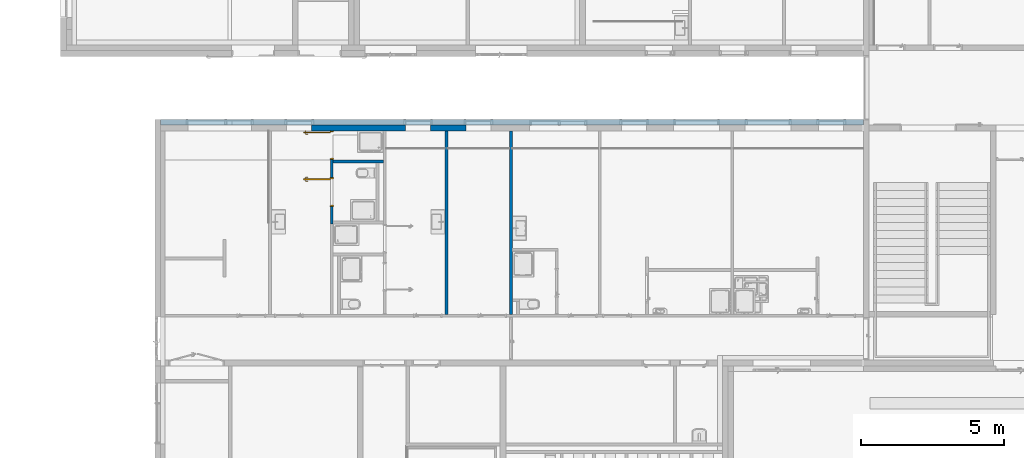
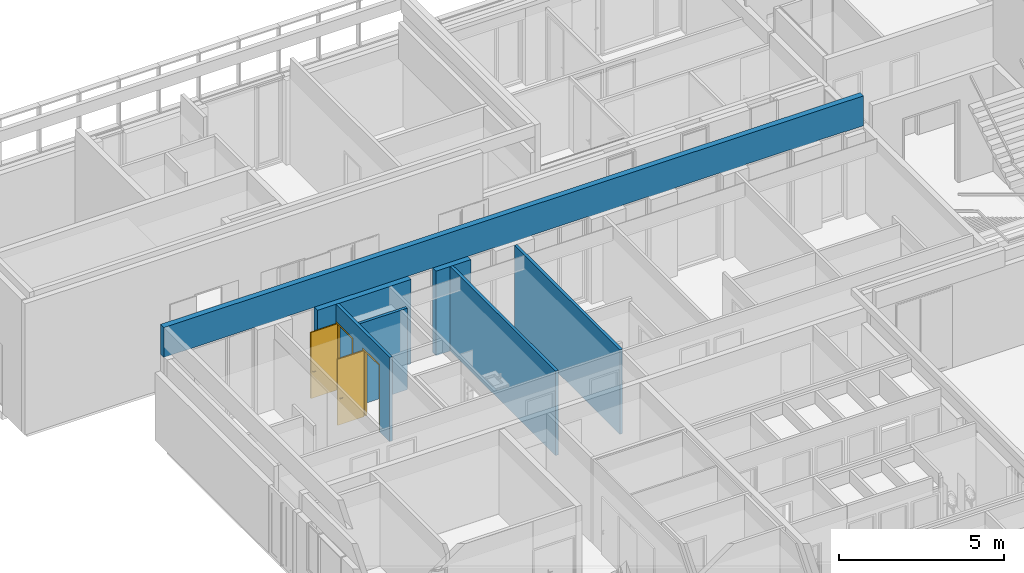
# One storey, part 112 of 240: 7 walls, 2 doors, 11 openings.
"""IFC2X3 building model written with IfcOpenShell, lengths in centimetres."""

import ifcopenshell
import ifcopenshell.guid

model = None  # the IFC model being written
_history = None  # IfcOwnerHistory: only IFC2X3 demands one
_inside = {}  # id of a spatial element -> (the spatial element, [elements in it])
_under = {}  # id of a project, library or spatial element -> (it, [spatial elements below it])
_declared = {}  # id of a project -> (the project, [libraries it declares])
_typed = {}  # id of a type object -> (the type object, [elements of that type])
_made_of = {}  # id of a material, layer set ... -> (it, [elements and type objects made of it])


def new_model(schema):
    """Start an empty IFC model of exactly this schema.

    Asked for "IFC4X3", IfcOpenShell would pick the latest addendum, in which some entities
    have other attributes; the version numbers below select the first issue.
    IFC2X3 requires an IfcOwnerHistory on every rooted entity: one is made here for all.
    """
    global model, _history
    if schema == "IFC4X3":
        model = ifcopenshell.file(schema_version=(4, 3, 0, 0))
    else:
        model = ifcopenshell.file(schema=schema)
    _inside.clear()
    _under.clear()
    _declared.clear()
    _typed.clear()
    _made_of.clear()
    _history = None
    if model.schema == "IFC2X3":
        org = make("IfcOrganization", Name="unknown")
        user = make(
            "IfcPersonAndOrganization",
            ThePerson=make("IfcPerson", FamilyName="unknown"),
            TheOrganization=org,
        )
        app = make(
            "IfcApplication",
            ApplicationDeveloper=org,
            Version="unknown",
            ApplicationFullName="unknown",
            ApplicationIdentifier="unknown",
        )
        _history = make(
            "IfcOwnerHistory",
            OwningUser=user,
            OwningApplication=app,
            ChangeAction="ADDED",
            CreationDate=0,
        )
    return model


def make(cls, **values):
    """One entity of the class cls with the attributes given. An attribute that is None is left unset."""
    return model.create_entity(
        cls, **{name: value for name, value in values.items() if value is not None}
    )


def entity(cls, *values):
    """Any entity or typed value of the class cls, its attributes in the order of the schema. None: left unset."""
    e = model.create_entity(cls)
    for i, value in enumerate(values):
        if value is not None:
            e[i] = value
    return e


def rooted(cls, **values):
    """An entity with a GlobalId (a new one), such as an element, a storey or a relation."""
    return make(cls, GlobalId=ifcopenshell.guid.new(), OwnerHistory=_history, **values)


def si_unit(unit_type, name, prefix=None):
    """IfcSIUnit, for example si_unit("LENGTHUNIT", "METRE", prefix="MILLI")."""
    return make("IfcSIUnit", UnitType=unit_type, Prefix=prefix, Name=name)


def converted_unit(unit_type, name, factor, base, dimensions=None, offset=None):
    """IfcConversionBasedUnit, such as the inch: factor (a typed value) times the base unit."""
    return make(
        "IfcConversionBasedUnit"
        if offset is None
        else "IfcConversionBasedUnitWithOffset",
        ConversionOffset=offset,
        Dimensions=None
        if dimensions is None
        else entity("IfcDimensionalExponents", *dimensions),
        UnitType=unit_type,
        Name=name,
        ConversionFactor=make(
            "IfcMeasureWithUnit", ValueComponent=factor, UnitComponent=base
        ),
    )


def derived_unit(unit_type, elements):
    """IfcDerivedUnit: a product of units, each with its exponent."""
    return make(
        "IfcDerivedUnit",
        Elements=[
            make("IfcDerivedUnitElement", Unit=unit, Exponent=power)
            for unit, power in elements
        ],
        UnitType=unit_type,
    )


def assignment(units):
    """IfcUnitAssignment: the units of a project."""
    return None if units is None else make("IfcUnitAssignment", Units=units)


def point(xyz):
    """IfcCartesianPoint."""
    return None if xyz is None else make("IfcCartesianPoint", Coordinates=xyz)


def direction(xyz):
    """IfcDirection."""
    return None if xyz is None else make("IfcDirection", DirectionRatios=xyz)


def frame(location, z_axis=None, x_axis=None):
    """IfcAxis2Placement3D, a coordinate frame: its origin and axes. An axis left out is left unset."""
    return make(
        "IfcAxis2Placement3D",
        Location=point(location),
        Axis=direction(z_axis),
        RefDirection=direction(x_axis),
    )


def frame_2d(location, x_axis=None):
    """IfcAxis2Placement2D, a coordinate frame in the plane: its origin and x axis."""
    return make(
        "IfcAxis2Placement2D", Location=point(location), RefDirection=direction(x_axis)
    )


def origin():
    """The frame at (0, 0, 0) with its axes left unset."""
    return frame((0.0, 0.0, 0.0))


def place(relative_to, where):
    """IfcLocalPlacement: puts the frame where relative to a parent placement (None: the world)."""
    return make(
        "IfcLocalPlacement", PlacementRelTo=relative_to, RelativePlacement=where
    )


def context(
    kind, dimensions, precision=None, world=None, true_north=None, identifier=None
):
    """IfcGeometricRepresentationContext, for example the 3D "Model" context."""
    return make(
        "IfcGeometricRepresentationContext",
        ContextIdentifier=identifier,
        ContextType=kind,
        CoordinateSpaceDimension=dimensions,
        Precision=precision,
        WorldCoordinateSystem=world,
        TrueNorth=true_north,
    )


def subcontext(parent, identifier, kind, view, scale=None):
    """IfcGeometricRepresentationSubContext, for example "Body" below "Model"."""
    return make(
        "IfcGeometricRepresentationSubContext",
        ContextIdentifier=identifier,
        ContextType=kind,
        ParentContext=parent,
        TargetScale=scale,
        TargetView=view,
    )


def project(units=None, contexts=None):
    """IfcProject with its units and contexts."""
    return rooted(
        "IfcProject",
        Name="project",
        RepresentationContexts=contexts,
        UnitsInContext=assignment(units),
    )


def spatial(cls, under=None, at=None, **own):
    """A site, building, storey or space (cls), placed at a placement, below another one or the project."""
    s = rooted(cls, ObjectPlacement=at, **own)
    if under is not None:
        _under.setdefault(under.id(), (under, []))[1].append(s)
    return s


def polyline(points):
    """IfcPolyline through the points."""
    return make("IfcPolyline", Points=[point(p) for p in points])


def profile(cls, at=None, kind="AREA", **sizes):
    """A parametric profile (cls). Its sizes go by their IFC names, for example OverallWidth=200.0."""
    return make(cls, ProfileType=kind, Position=at, **sizes)


def rectangle(**sizes):
    """IfcRectangleProfileDef."""
    return profile("IfcRectangleProfileDef", **sizes)


def extrude(swept, where, along, depth):
    """IfcExtrudedAreaSolid: the profile swept, set in the frame where, extruded along a direction by depth."""
    return make(
        "IfcExtrudedAreaSolid",
        SweptArea=swept,
        Position=where,
        ExtrudedDirection=direction(along),
        Depth=depth,
    )


def clip(a, b, op="DIFFERENCE"):
    """IfcBooleanClippingResult: the solid a cut by the half space b."""
    return make(
        "IfcBooleanClippingResult", Operator=op, FirstOperand=a, SecondOperand=b
    )


def bounded_halfspace(plane, agree, where, boundary):
    """IfcPolygonalBoundedHalfSpace: a half space limited to a polygon's prism."""
    return make(
        "IfcPolygonalBoundedHalfSpace",
        BaseSurface=make("IfcPlane", Position=plane),
        AgreementFlag=agree,
        Position=where,
        PolygonalBoundary=boundary,
    )


def faces_of(points, faces, orient=None, outer=None):
    """IfcFace entities. A face is a list of loops; a loop is a list of indices into points, from 0.

    orient and outer hold one flag for each loop. By default every Orientation is true, the
    first loop of a face is its IfcFaceOuterBound and the others are IfcFaceBound.
    """
    made = []
    for i, loops in enumerate(faces):
        bounds = []
        for j, loop in enumerate(loops):
            is_outer = j == 0 if outer is None else outer[i][j]
            bounds.append(
                make(
                    "IfcFaceOuterBound" if is_outer else "IfcFaceBound",
                    Bound=make("IfcPolyLoop", Polygon=[points[k] for k in loop]),
                    Orientation=True if orient is None else orient[i][j],
                )
            )
        made.append(make("IfcFace", Bounds=bounds))
    return made


def faceted_brep(points, faces, orient=None, outer=None, voids=None):
    """IfcFacetedBrep: a solid bounded by flat faces; with voids (closed shells), ...WithVoids."""
    shared = [point(p) for p in points]
    hull = make("IfcClosedShell", CfsFaces=faces_of(shared, faces, orient, outer))
    if voids is None:
        return make("IfcFacetedBrep", Outer=hull)
    return make(
        "IfcFacetedBrepWithVoids",
        Outer=hull,
        Voids=[
            make(cls, CfsFaces=faces_of(shared, fs, o, b)) for cls, fs, o, b in voids
        ],
    )


def shape(context_of_items, identifier, shape_type, items):
    """IfcShapeRepresentation: the items that make up one representation, for example the "Body"."""
    return make(
        "IfcShapeRepresentation",
        ContextOfItems=context_of_items,
        RepresentationIdentifier=identifier,
        RepresentationType=shape_type,
        Items=items,
    )


def source(mapping_origin, context_of_items, identifier, shape_type, items):
    """IfcRepresentationMap: a shape defined once, which mapped items show again and again."""
    return make(
        "IfcRepresentationMap",
        MappingOrigin=mapping_origin,
        MappedRepresentation=shape(context_of_items, identifier, shape_type, items),
    )


def transform(
    local_origin,
    x_axis=None,
    y_axis=None,
    z_axis=None,
    scale=None,
    scale2=None,
    scale3=None,
    uniform=True,
):
    """IfcCartesianTransformationOperator3D, or its non-uniform kind. x_axis, y_axis, z_axis: its Axis1, 2, 3."""
    if uniform:
        return make(
            "IfcCartesianTransformationOperator3D",
            Axis1=direction(x_axis),
            Axis2=direction(y_axis),
            LocalOrigin=point(local_origin),
            Scale=scale,
            Axis3=direction(z_axis),
        )
    return make(
        "IfcCartesianTransformationOperator3DnonUniform",
        Axis1=direction(x_axis),
        Axis2=direction(y_axis),
        LocalOrigin=point(local_origin),
        Scale=scale,
        Axis3=direction(z_axis),
        Scale2=scale2,
        Scale3=scale3,
    )


def mapped(mapping_source, mapping_target):
    """IfcMappedItem: shows the shape of a source again, moved by a transform."""
    return make(
        "IfcMappedItem", MappingSource=mapping_source, MappingTarget=mapping_target
    )


def material(Name=None, Category=None):
    """IfcMaterial."""
    return make("IfcMaterial", Name=Name, Category=Category)


def material_list(materials):
    """IfcMaterialList."""
    return make("IfcMaterialList", Materials=materials)


def layer(
    of_material, thickness, ventilated=None, Name=None, Category=None, Priority=None
):
    """IfcMaterialLayer: one layer of a wall or slab, of a material (None: an air gap)."""
    return make(
        "IfcMaterialLayer",
        Material=of_material,
        LayerThickness=thickness,
        IsVentilated=ventilated,
        Name=Name,
        Category=Category,
        Priority=Priority,
    )


def layer_set(layers, Name=None):
    """IfcMaterialLayerSet."""
    return make("IfcMaterialLayerSet", MaterialLayers=layers, LayerSetName=Name)


def layer_usage(for_layer_set, set_direction, sense, offset, extent=None):
    """IfcMaterialLayerSetUsage: how a layer set lies in its element."""
    return make(
        "IfcMaterialLayerSetUsage",
        ForLayerSet=for_layer_set,
        LayerSetDirection=set_direction,
        DirectionSense=sense,
        OffsetFromReferenceLine=offset,
        ReferenceExtent=extent,
    )


def made_of(thing, what):
    """Note that an element or type object is made of a material, layer set ...; save() writes the relation."""
    if what is not None:
        _made_of.setdefault(what.id(), (what, []))[1].append(thing)
    return thing


def type_object(cls, material=None, **own):
    """A type object (cls), such as IfcWallType, which elements share."""
    return made_of(rooted(cls, **own), material)


def type_shapes(of_type, sources):
    """Give a type object the sources (RepresentationMaps) that its elements show as mapped items."""
    of_type.RepresentationMaps = sources


def element(
    cls,
    number,
    at=None,
    inside=None,
    cuts=None,
    type_object=None,
    material=None,
    context=None,
    identifier="Body",
    shape_type=None,
    held_by="IfcProductDefinitionShape",
    body=None,
    shapes=None,
    **own,
):
    """One element of the class cls, such as IfcWall. Its Tag is "e" and its number.

    at: its placement. inside: the storey or other place that contains it. cuts: it is an
    opening in that element (IfcRelVoidsElement). A single representation is given by context,
    identifier, shape_type and body (its items); several are given by shapes. held_by: the class
    of the entity that holds the representations. save() writes the other relations.
    """
    e = rooted(cls, Tag="e%d" % number, ObjectPlacement=at, **own)
    if body is not None:
        shapes = [shape(context, identifier, shape_type, body)]
    if shapes is not None:
        e.Representation = make(held_by, Representations=shapes)
    if inside is not None:
        _inside.setdefault(inside.id(), (inside, []))[1].append(e)
    if cuts is not None:
        rooted(
            "IfcRelVoidsElement", RelatingBuildingElement=cuts, RelatedOpeningElement=e
        )
    if type_object is not None:
        _typed.setdefault(type_object.id(), (type_object, []))[1].append(e)
    return made_of(e, material)


def fill(opening, filler):
    """IfcRelFillsElement: the door or window that sits in an opening."""
    return rooted(
        "IfcRelFillsElement",
        RelatingOpeningElement=opening,
        RelatedBuildingElement=filler,
    )


def aggregate(whole, parts):
    """IfcRelAggregates: a whole, such as a stair, and the parts it consists of."""
    return rooted("IfcRelAggregates", RelatingObject=whole, RelatedObjects=parts)


def save(model, path):
    """Write the relations noted so far, then the file.

    IfcRelAggregates (storeys below a building ...), IfcRelContainedInSpatialStructure (elements
    in a storey), IfcRelDefinesByType, IfcRelAssociatesMaterial and IfcRelDeclares: one each for
    every whole, place, type object, material and project.
    """
    for whole, parts in _under.values():
        aggregate(whole, parts)
    for where, things in _inside.values():
        rooted(
            "IfcRelContainedInSpatialStructure",
            RelatedElements=things,
            RelatingStructure=where,
        )
    for kind, things in _typed.values():
        rooted("IfcRelDefinesByType", RelatedObjects=things, RelatingType=kind)
    for what, things in _made_of.values():
        rooted("IfcRelAssociatesMaterial", RelatedObjects=things, RelatingMaterial=what)
    for by, libraries in _declared.values():
        rooted("IfcRelDeclares", RelatingContext=by, RelatedDefinitions=libraries)
    model.write(path)


model = new_model("IFC2X3")

# Units and contexts
model_context = context("Model", 3, precision=0.001, world=origin(), true_north=direction((6.12303176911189e-17, 1.0)))
body_context = subcontext(model_context, "Body", "Model", "MODEL_VIEW")
ifc_project = project(units=[si_unit("LENGTHUNIT", "METRE", prefix="CENTI"), si_unit("AREAUNIT", "SQUARE_METRE"), si_unit("VOLUMEUNIT", "CUBIC_METRE"), converted_unit("PLANEANGLEUNIT", "DEGREE", entity("IfcRatioMeasure", 0.0174532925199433), si_unit("PLANEANGLEUNIT", "RADIAN"), dimensions=[0, 0, 0, 0, 0, 0, 0]), si_unit("MASSUNIT", "GRAM", prefix="KILO"), derived_unit("MASSDENSITYUNIT", [(si_unit("MASSUNIT", "GRAM", prefix="KILO"), 1), (si_unit("LENGTHUNIT", "METRE"), -3)]), si_unit("TIMEUNIT", "SECOND"), si_unit("FREQUENCYUNIT", "HERTZ"), si_unit("THERMODYNAMICTEMPERATUREUNIT", "DEGREE_CELSIUS"), derived_unit("THERMALTRANSMITTANCEUNIT", [(si_unit("MASSUNIT", "GRAM", prefix="KILO"), 1), (si_unit("THERMODYNAMICTEMPERATUREUNIT", "KELVIN"), -1), (si_unit("TIMEUNIT", "SECOND"), -3)]), derived_unit("VOLUMETRICFLOWRATEUNIT", [(si_unit("LENGTHUNIT", "METRE"), 3), (si_unit("TIMEUNIT", "SECOND"), -1)]), si_unit("ELECTRICCURRENTUNIT", "AMPERE"), si_unit("ELECTRICVOLTAGEUNIT", "VOLT"), si_unit("POWERUNIT", "WATT"), si_unit("FORCEUNIT", "NEWTON", prefix="KILO"), si_unit("ILLUMINANCEUNIT", "LUX"), si_unit("LUMINOUSFLUXUNIT", "LUMEN"), si_unit("LUMINOUSINTENSITYUNIT", "CANDELA"), derived_unit("USERDEFINED", [(si_unit("MASSUNIT", "GRAM", prefix="KILO"), -1), (si_unit("LENGTHUNIT", "METRE"), -2), (si_unit("TIMEUNIT", "SECOND"), 3), (si_unit("LUMINOUSFLUXUNIT", "LUMEN"), 1)]), derived_unit("LINEARVELOCITYUNIT", [(si_unit("LENGTHUNIT", "METRE"), 1), (si_unit("TIMEUNIT", "SECOND"), -1)]), si_unit("PRESSUREUNIT", "PASCAL"), derived_unit("USERDEFINED", [(si_unit("LENGTHUNIT", "METRE"), -2), (si_unit("MASSUNIT", "GRAM", prefix="KILO"), 1), (si_unit("TIMEUNIT", "SECOND"), -2)])], contexts=[model_context])

# Site, building, storey
site_placement = place(None, frame((-2781.94577612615, 7442.24238424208, 0.0)))
site = spatial("IfcSite", under=ifc_project, at=site_placement, Name="Default", CompositionType="ELEMENT")
building_placement = place(site_placement, origin())
building = spatial("IfcBuilding", under=site, at=building_placement, CompositionType="ELEMENT")
storey_placement = place(building_placement, origin())
storey = spatial("IfcBuildingStorey", under=building, at=storey_placement, Name="N00 - COO", CompositionType="ELEMENT", Elevation=0.0)

# Wall, openings
ifc_material_1 = material(Name="Aluminium bardage")
ifc_layer_1 = layer(ifc_material_1, 0.5)
ifc_material_2 = material(Name="01 - Lame d'air")
ifc_layer_2 = layer(ifc_material_2, 1.5)
ifc_material_3 = material(Name="00 - Isolant")
ifc_layer_3 = layer(ifc_material_3, 18.0)
ifc_layer_set_1 = layer_set([ifc_layer_1, ifc_layer_2, ifc_layer_3], Name="Mur de base:04 - Parement - ITE 18cm + vide 2cm")
ifc_layer_usage_1 = layer_usage(ifc_layer_set_1, "AXIS2", "NEGATIVE", 10.0)
wall_type_1 = type_object("IfcWallType", Name="Mur de base:04 - Parement - ITE 18cm + vide 2cm", PredefinedType="STANDARD", material=ifc_layer_set_1)
wall_1_placement = place(building_placement, frame((-10881.6130476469, -1080.0, 311.0)))
wall_1 = element("IfcWallStandardCase", 1, at=wall_1_placement, inside=storey, type_object=wall_type_1, material=ifc_layer_usage_1, Name="Mur de base:04 - Parement - ITE 18cm + vide 2cm", ObjectType="Mur de base:04 - Parement - ITE 18cm + vide 2cm", context=body_context, shape_type="SweptSolid", body=[
    extrude(rectangle(XDim=2452.11316997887, YDim=20.0000000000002, at=frame_2d((1226.05658498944, 3.19744231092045e-14), x_axis=(-1.0, 0.0))), origin(), (0.0, 0.0, 1.0), 111.0),
])
opening_1_placement = place(wall_1_placement, origin())
element("IfcOpeningElement", 2, at=opening_1_placement, cuts=wall_1, Name="Mur de base:04 - Parement - ITE 18cm + vide 2cm", ObjectType="Opening", context=body_context, shape_type="SweptSolid", body=[
    extrude(rectangle(XDim=312.5, YDim=99.9999999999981, at=frame_2d((0.0, 0.0), x_axis=(0.0, 1.0))), frame((1108.61316997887, -25.2399999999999, -154.75), z_axis=(0.0, 1.0, 0.0), x_axis=(-1.0, 0.0, 0.0)), (0.0, 0.0, 1.0), 50.48),
])
opening_2_placement = place(wall_1_placement, origin())
element("IfcOpeningElement", 3, at=opening_2_placement, cuts=wall_1, Name="Mur de base:04 - Parement - ITE 18cm + vide 2cm", ObjectType="Opening", context=body_context, shape_type="SweptSolid", body=[
    extrude(rectangle(XDim=312.5, YDim=99.9999999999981, at=frame_2d((0.0, 0.0), x_axis=(0.0, 1.0))), frame((898.613169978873, -25.2399999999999, -154.75), z_axis=(0.0, 1.0, 0.0), x_axis=(-1.0, 0.0, 0.0)), (0.0, 0.0, 1.0), 50.48),
])
opening_3_placement = place(wall_1_placement, origin())
element("IfcOpeningElement", 4, at=opening_3_placement, cuts=wall_1, Name="Mur de base:04 - Parement - ITE 18cm + vide 2cm", ObjectType="Opening", context=body_context, shape_type="SweptSolid", body=[
    extrude(rectangle(XDim=312.5, YDim=99.9999999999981, at=frame_2d((0.0, 0.0), x_axis=(0.0, 1.0))), frame((483.613169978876, -25.2399999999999, -154.75), z_axis=(0.0, 1.0, 0.0), x_axis=(-1.0, 0.0, 0.0)), (0.0, 0.0, 1.0), 50.48),
])
opening_4_placement = place(wall_1_placement, origin())
element("IfcOpeningElement", 5, at=opening_4_placement, cuts=wall_1, Name="Mur de base:04 - Parement - ITE 18cm + vide 2cm", ObjectType="Opening", context=body_context, shape_type="SweptSolid", body=[
    extrude(rectangle(XDim=312.5, YDim=99.9999999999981, at=frame_2d((0.0, 0.0), x_axis=(0.0, 1.0))), frame((1652.11316997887, -25.2399999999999, -154.75), z_axis=(0.0, 1.0, 0.0), x_axis=(-1.0, 0.0, 0.0)), (0.0, 0.0, 1.0), 50.48),
])
opening_5_placement = place(wall_1_placement, origin())
element("IfcOpeningElement", 6, at=opening_5_placement, cuts=wall_1, Name="Mur de base:04 - Parement - ITE 18cm + vide 2cm", ObjectType="Opening", context=body_context, shape_type="SweptSolid", body=[
    extrude(rectangle(XDim=312.5, YDim=160.0, at=frame_2d((-8.66862137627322e-13, 0.0), x_axis=(0.0, 1.0))), frame((1869.61316997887, -25.2399999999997, -154.75), z_axis=(0.0, 1.0, 0.0), x_axis=(-1.0, 0.0, 0.0)), (0.0, 0.0, 1.0), 50.48),
])
opening_6_placement = place(wall_1_placement, origin())
element("IfcOpeningElement", 7, at=opening_6_placement, cuts=wall_1, Name="Mur de base:04 - Parement - ITE 18cm + vide 2cm", ObjectType="Opening", context=body_context, shape_type="SweptSolid", body=[
    extrude(rectangle(XDim=312.5, YDim=160.0, at=frame_2d((-8.66862137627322e-13, 0.0), x_axis=(0.0, 1.0))), frame((2119.61316997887, -25.2399999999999, -154.75), z_axis=(0.0, 1.0, 0.0), x_axis=(-1.0, 0.0, 0.0)), (0.0, 0.0, 1.0), 50.48),
])
opening_7_placement = place(wall_1_placement, origin())
element("IfcOpeningElement", 8, at=opening_7_placement, cuts=wall_1, Name="Mur de base:04 - Parement - ITE 18cm + vide 2cm", ObjectType="Opening", context=body_context, shape_type="SweptSolid", body=[
    extrude(rectangle(XDim=312.5, YDim=99.9999999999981, at=frame_2d((0.0, 0.0), x_axis=(0.0, 1.0))), frame((2339.61316997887, -25.2399999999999, -154.75), z_axis=(0.0, 1.0, 0.0), x_axis=(-1.0, 0.0, 0.0)), (0.0, 0.0, 1.0), 50.48),
])
opening_8_placement = place(wall_1_placement, origin())
element("IfcOpeningElement", 9, at=opening_8_placement, cuts=wall_1, Name="Mur de base:04 - Parement - ITE 18cm + vide 2cm", ObjectType="Opening", context=body_context, shape_type="SweptSolid", body=[
    extrude(rectangle(XDim=312.5, YDim=200.000000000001, at=frame_2d((-8.66862137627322e-13, 0.0), x_axis=(0.0, 1.0))), frame((1387.11316997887, -25.2400000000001, -154.75), z_axis=(0.0, 1.0, 0.0), x_axis=(-1.0, 0.0, 0.0)), (0.0, 0.0, 1.0), 50.48),
])

# Wall
ifc_material_4 = material(Name="01 - Maçonnerie")
ifc_layer_4 = layer(ifc_material_4, 20.0)
ifc_layer_set_2 = layer_set([ifc_layer_4], Name="Mur de base:04 - Structure - béton - 20cm")
ifc_layer_usage_2 = layer_usage(ifc_layer_set_2, "AXIS2", "NEGATIVE", 10.0)
wall_type_2 = type_object("IfcWallType", Name="Mur de base:04 - Structure - béton - 20cm", PredefinedType="STANDARD", material=ifc_layer_set_2)
wall_2_placement = place(building_placement, frame((-9816.49987766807, -1100.0, 0.0), z_axis=(0.0, 0.0, 1.0), x_axis=(-1.0, 0.0, 0.0)))
element("IfcWallStandardCase", 10, at=wall_2_placement, inside=storey, type_object=wall_type_2, material=ifc_layer_usage_2, Name="Mur de base:04 - Structure - béton - 20cm", ObjectType="Mur de base:04 - Structure - béton - 20cm", context=body_context, shape_type="SweptSolid", body=[
    extrude(rectangle(XDim=123.000000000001, YDim=20.0000000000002, at=frame_2d((61.5000000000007, 0.0), x_axis=(-1.0, 0.0))), origin(), (0.0, 0.0, 1.0), 313.0),
])

# Wall, opening
ifc_layer_usage_3 = layer_usage(ifc_layer_set_2, "AXIS2", "NEGATIVE", 10.0)
wall_3_placement = place(building_placement, frame((-10026.4998776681, -1100.0, 0.0), z_axis=(0.0, 0.0, 1.0), x_axis=(-1.0, 0.0, 0.0)))
wall_3 = element("IfcWallStandardCase", 11, at=wall_3_placement, inside=storey, type_object=wall_type_2, material=ifc_layer_usage_3, Name="Mur de base:04 - Structure - béton - 20cm", ObjectType="Mur de base:04 - Structure - béton - 20cm", context=body_context, shape_type="SweptSolid", body=[
    extrude(rectangle(XDim=327.999999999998, YDim=19.9999999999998, at=frame_2d((163.999999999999, 0.0), x_axis=(-1.0, 0.0))), origin(), (0.0, 0.0, 1.0), 313.0),
])
opening_9_placement = place(wall_3_placement, origin())
element("IfcOpeningElement", 12, at=opening_9_placement, cuts=wall_3, Name="Mur de base:04 - Structure - béton - 20cm", ObjectType="Opening", context=body_context, shape_type="SweptSolid", body=[
    extrude(rectangle(XDim=248.500000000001, YDim=9.99999999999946, at=frame_2d((-8.66418048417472e-13, 0.0), x_axis=(0.0, 1.0))), frame((258.0, 10.0, 124.250000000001), z_axis=(0.0, 1.0, 0.0), x_axis=(1.0, 0.0, 0.0)), (0.0, 0.0, 1.0), 99.9999999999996),
])

# Walls
ifc_material_5 = material(Name="01 - Enduit/Plâtre")
ifc_layer_5 = layer(ifc_material_5, 1.3)
ifc_layer_6 = layer(ifc_material_3, 7.4)
ifc_layer_7 = layer(ifc_material_5, 1.3)
ifc_layer_set_3 = layer_set([ifc_layer_5, ifc_layer_6, ifc_layer_7], Name="Mur de base:06 - cloisons - Ba13 10cm")
ifc_layer_usage_4 = layer_usage(ifc_layer_set_3, "AXIS2", "NEGATIVE", 5.0)
wall_type_3 = type_object("IfcWallType", Name="Mur de base:06 - cloisons - Ba13 10cm", PredefinedType="STANDARD", material=ifc_layer_set_3)
wall_4_placement = place(building_placement, frame((-9884.49987766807, -1110.0, 0.0), z_axis=(0.0, 0.0, 1.0), x_axis=(0.0, -1.0, 0.0)))
element("IfcWallStandardCase", 13, at=wall_4_placement, inside=storey, type_object=wall_type_3, material=ifc_layer_usage_4, Name="Mur de base:06 - cloisons - Ba13 10cm", ObjectType="Mur de base:06 - cloisons - Ba13 10cm", context=body_context, shape_type="Clipping", body=[
    clip(extrude(rectangle(XDim=640.000000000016, YDim=10.0000000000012, at=frame_2d((320.000000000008, 0.0), x_axis=(-1.0, 0.0))), origin(), (0.0, 0.0, 1.0), 313.0), bounded_halfspace(frame((0.0, -5.0, 0.0), z_axis=(1.0, 0.0, 0.0), x_axis=(0.0, 1.0, 0.0)), True, frame((0.0, -5.0, 0.0), z_axis=(1.0, 0.0, 0.0), x_axis=(0.0, 1.0, 0.0)), polyline([(0.0, 0.0), (10.0, 0.0), (10.0, 313.0), (0.0, 313.0), (0.0, 0.0)]))),
])
ifc_layer_usage_5 = layer_usage(ifc_layer_set_3, "AXIS2", "NEGATIVE", 5.0)
wall_5_placement = place(building_placement, frame((-9659.49987766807, -1110.0, 0.0), z_axis=(0.0, 0.0, 1.0), x_axis=(0.0, -1.0, 0.0)))
element("IfcWallStandardCase", 14, at=wall_5_placement, inside=storey, type_object=wall_type_3, material=ifc_layer_usage_5, Name="Mur de base:06 - cloisons - Ba13 10cm", ObjectType="Mur de base:06 - cloisons - Ba13 10cm", context=body_context, shape_type="Clipping", body=[
    clip(extrude(rectangle(XDim=640.000000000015, YDim=10.0000000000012, at=frame_2d((320.000000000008, 0.0), x_axis=(-1.0, 0.0))), origin(), (0.0, 0.0, 1.0), 313.0), bounded_halfspace(frame((0.0, -5.0, 0.0), z_axis=(1.0, 0.0, 0.0), x_axis=(0.0, 1.0, 0.0)), True, frame((0.0, -5.0, 0.0), z_axis=(1.0, 0.0, 0.0), x_axis=(0.0, 1.0, 0.0)), polyline([(0.0, 0.0), (10.0, 0.0), (10.0, 313.0), (0.0, 313.0), (0.0, 0.0)]))),
])
ifc_layer_usage_6 = layer_usage(ifc_layer_set_3, "AXIS2", "NEGATIVE", 5.0)
wall_6_placement = place(building_placement, frame((-10104.4998776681, -1217.0, 0.0), z_axis=(0.0, 0.0, 1.0), x_axis=(-1.0, 0.0, 0.0)))
element("IfcWallStandardCase", 15, at=wall_6_placement, inside=storey, type_object=wall_type_3, material=ifc_layer_usage_6, Name="Mur de base:06 - cloisons - Ba13 10cm", ObjectType="Mur de base:06 - cloisons - Ba13 10cm", context=body_context, shape_type="SweptSolid", body=[
    extrude(rectangle(XDim=175.0, YDim=9.99999999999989, at=frame_2d((87.5, -2.66453525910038e-14), x_axis=(-1.0, 0.0))), origin(), (0.0, 0.0, 1.0), 302.0),
])

# Wall, openings, doors
ifc_layer_usage_7 = layer_usage(ifc_layer_set_3, "AXIS2", "NEGATIVE", 5.0)
wall_7_placement = place(building_placement, frame((-10284.4998776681, -1435.0, 0.0), z_axis=(0.0, 0.0, 1.0), x_axis=(0.0, 1.0, 0.0)))
wall_7 = element("IfcWallStandardCase", 16, at=wall_7_placement, inside=storey, type_object=wall_type_3, material=ifc_layer_usage_7, Name="Mur de base:06 - cloisons - Ba13 10cm", ObjectType="Mur de base:06 - cloisons - Ba13 10cm", context=body_context, shape_type="SweptSolid", body=[
    extrude(rectangle(XDim=325.000000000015, YDim=10.0000000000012, at=frame_2d((162.500000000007, -4.36095604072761e-13), x_axis=(-1.0, 0.0))), origin(), (0.0, 0.0, 1.0), 313.0),
])
opening_10_placement = place(wall_7_placement, frame((61.5000000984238, -5.0, 0.0)))
opening_10 = element("IfcOpeningElement", 17, at=opening_10_placement, cuts=wall_7, Name="Int. Simple:PP simple (0.93m x 2.50m):1", ObjectType="Opening", context=body_context, shape_type="SweptSolid", body=[
    extrude(rectangle(XDim=248.500000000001, YDim=99.9999999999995, at=frame_2d((124.250000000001, 49.9999999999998), x_axis=(1.0, 0.0))), frame((0.0, 0.0, 0.0), z_axis=(0.0, 1.0, 0.0), x_axis=(0.0, 0.0, 1.0)), (0.0, 0.0, 1.0), 10.0),
])
opening_11_placement = place(wall_7_placement, frame((225.0, -5.0, 0.0)))
opening_11 = element("IfcOpeningElement", 18, at=opening_11_placement, cuts=wall_7, Name="Int. Simple:PP simple (0.93m x 2.50m):1", ObjectType="Opening", context=body_context, shape_type="SweptSolid", body=[
    extrude(rectangle(XDim=248.500000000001, YDim=99.9999999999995, at=frame_2d((124.250000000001, 49.9999999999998), x_axis=(1.0, 0.0))), frame((0.0, 0.0, 0.0), z_axis=(0.0, 1.0, 0.0), x_axis=(0.0, 0.0, 1.0)), (0.0, 0.0, 1.0), 10.0),
])
ifc_material_6 = material(Name="Finition Peinture - Blanc satiné")
ifc_material_7 = material(Name="Bois - Panneau de porte")
ifc_material_8 = material(Name="Bois - Cadre de porte")
ifc_material_list_1 = material_list([ifc_material_6, ifc_material_7, ifc_material_8])
ifc_material_list_2 = material_list([ifc_material_6, ifc_material_7, ifc_material_8])
door_style = type_object("IfcDoorStyle", Name="PP simple (0.93m x 2.50m)", ConstructionType="NOTDEFINED", OperationType="SINGLE_SWING_RIGHT", ParameterTakesPrecedence=False, Sizeable=False, material=ifc_material_list_2)
shared_shape = source(origin(), body_context, "Body", "Brep", [
    faceted_brep([(10.0, -89.0, 87.0), (10.0, -89.0, 108.0), (10.0, -88.0352761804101, 108.399601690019), (10.0, -87.0, 108.535898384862), (10.0, -85.96472381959, 108.399601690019), (10.0, -85.0, 108.0), (10.0, -85.0, 87.0), (10.0, -85.9647238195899, 86.6003983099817), (10.0, -87.0, 86.464101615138), (10.0, -88.03527618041, 86.6003983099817), (10.500000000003, -89.0, 108.0), (10.500000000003, -89.0, 87.0), (10.500000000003, -88.03527618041, 86.6003983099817), (10.500000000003, -87.0, 86.464101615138), (10.500000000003, -85.9647238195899, 86.6003983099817), (10.500000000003, -85.0, 87.0), (10.500000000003, -85.0, 108.0), (10.500000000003, -85.96472381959, 108.399601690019), (10.500000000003, -87.0, 108.535898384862), (10.500000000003, -88.0352761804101, 108.399601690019)], [[[0, 1, 2, 3, 4, 5, 6, 7, 8, 9]], [[10, 11, 12, 13, 14, 15, 16, 17, 18, 19]], [[9, 12, 11, 0]], [[8, 13, 12, 9]], [[7, 14, 13, 8]], [[7, 6, 15, 14]], [[15, 6, 5, 16]], [[4, 17, 16, 5]], [[3, 18, 17, 4]], [[2, 19, 18, 3]], [[2, 1, 10, 19]], [[11, 10, 1, 0]]]),
    faceted_brep([(14.500000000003, -89.0, 87.0), (14.500000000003, -89.0, 108.0), (14.500000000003, -88.0352761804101, 108.399601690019), (14.500000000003, -87.0, 108.535898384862), (14.500000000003, -85.96472381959, 108.399601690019), (14.500000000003, -85.0, 108.0), (14.500000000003, -85.0, 87.0), (14.500000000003, -85.9647238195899, 86.6003983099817), (14.500000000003, -87.0, 86.464101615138), (14.500000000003, -88.03527618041, 86.6003983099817), (15.0, -87.0, 108.535898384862), (15.0, -88.0352761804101, 108.399601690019), (15.0, -89.0, 108.0), (15.0, -89.0, 87.0), (15.0, -88.03527618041, 86.6003983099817), (15.0, -87.0, 86.464101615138), (15.0, -85.9647238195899, 86.6003983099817), (15.0, -85.0, 87.0), (15.0, -85.0, 108.0), (15.0, -85.96472381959, 108.399601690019)], [[[0, 1, 2, 3, 4, 5, 6, 7, 8, 9]], [[10, 11, 12, 13, 14, 15, 16, 17, 18, 19]], [[4, 19, 18, 5]], [[3, 10, 19, 4]], [[2, 11, 10, 3]], [[2, 1, 12, 11]], [[13, 12, 1, 0]], [[9, 14, 13, 0]], [[8, 15, 14, 9]], [[7, 16, 15, 8]], [[7, 6, 17, 16]], [[17, 6, 5, 18]]]),
    faceted_brep([(10.0, -86.7974701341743, 100.778044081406), (10.0, -87.2025298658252, 100.778044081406), (10.0, -87.6000000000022, 100.699999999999), (10.0, -87.6000000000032, 99.2999999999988), (10.0, -87.202529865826, 99.221955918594), (10.0, -86.7974701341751, 99.2219559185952), (10.0, -86.3999999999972, 99.3000000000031), (10.0, -86.3999999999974, 100.7), (7.39954245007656, -87.2025298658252, 100.778044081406), (7.2349049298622, -87.6000000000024, 100.7), (7.56732368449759, -86.7974701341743, 100.778044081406), (6.19971379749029, -85.4298602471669, 100.778044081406), (5.79465406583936, -85.5976414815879, 100.778044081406), (7.73196120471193, -86.3999999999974, 100.7), (7.731961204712, -86.3999999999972, 99.3000000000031), (7.56732368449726, -86.7974701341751, 99.2219559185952), (7.39954245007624, -87.202529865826, 99.221955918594), (5.79465406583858, -85.5976414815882, 99.221955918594), (6.1997137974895, -85.4298602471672, 99.2219559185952), (7.2349049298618, -87.6000000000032, 99.2999999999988), (5.39718393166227, -85.7622790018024, 100.7), (6.59718393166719, -85.2652227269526, 100.7), (6.59718393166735, -85.2652227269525, 99.3000000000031), (5.39718393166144, -85.7622790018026, 99.2999999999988), (5.39718393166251, -76.9981359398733, 100.7), (5.79465406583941, -76.9981359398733, 100.778044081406), (6.19971379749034, -76.9981359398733, 100.778044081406), (6.59718393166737, -76.9981359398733, 100.699999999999), (6.59718393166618, -76.9981359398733, 99.3000000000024), (6.19971379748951, -76.9981359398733, 99.2219559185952), (5.7946540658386, -76.9981359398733, 99.221955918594), (5.39718393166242, -76.9981359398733, 99.2999999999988), (5.99718393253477, -81.2139980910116, 100.78786867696), (5.39718393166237, -81.7692302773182, 100.7), (6.59718393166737, -81.1316793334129, 100.7), (6.59718393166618, -81.1316793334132, 99.3000000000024), (5.99718392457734, -81.2139981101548, 99.2121313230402), (5.39718393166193, -81.7692310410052, 99.2999999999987)], [[[0, 1, 2, 3, 4, 5, 6, 7]], [[2, 1, 8, 9]], [[1, 0, 10, 11, 12, 8]], [[0, 7, 13, 10]], [[14, 13, 7, 6]], [[5, 15, 14, 6]], [[5, 4, 16, 17, 18, 15]], [[3, 19, 16, 4]], [[9, 19, 3, 2]], [[9, 8, 12, 20]], [[10, 13, 21, 11]], [[22, 21, 13, 14]], [[14, 15, 18, 22]], [[16, 19, 23, 17]], [[20, 23, 19, 9]], [[24, 25, 26, 27, 28, 29, 30, 31]], [[32, 25, 33]], [[33, 25, 24]], [[33, 20, 12]], [[11, 34, 32]], [[34, 11, 21]], [[27, 26, 34]], [[32, 26, 25]], [[32, 34, 26]], [[32, 33, 12]], [[11, 32, 12]], [[21, 22, 35, 28, 27, 34]], [[36, 29, 35]], [[30, 36, 37]], [[18, 35, 22]], [[29, 28, 35]], [[30, 37, 31]], [[37, 17, 23]], [[36, 17, 37]], [[36, 18, 17]], [[36, 35, 18]], [[29, 36, 30]], [[23, 20, 33, 24, 31, 37]]]),
    faceted_brep([(15.0, -86.7974701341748, 99.2219559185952), (15.0, -87.2025298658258, 99.221955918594), (15.0, -87.6000000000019, 99.2999999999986), (15.0, -87.6000000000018, 100.7), (15.0, -87.2025298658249, 100.778044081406), (15.0, -86.797470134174, 100.778044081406), (15.0, -86.3999999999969, 100.7), (15.0, -86.3999999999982, 99.3000000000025), (17.2485204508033, -86.399999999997, 100.7), (17.2485204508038, -86.399999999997, 99.3000000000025), (17.4131579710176, -86.7974701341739, 100.778044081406), (17.5809392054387, -87.2025298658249, 100.778044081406), (19.1995784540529, -85.5838906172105, 100.778044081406), (18.794518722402, -85.4161093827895, 100.778044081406), (17.745576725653, -87.6000000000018, 100.7), (17.7455767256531, -87.6000000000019, 99.2999999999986), (17.5809392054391, -87.2025298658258, 99.221955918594), (17.413157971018, -86.7974701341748, 99.2219559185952), (18.7945187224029, -85.4161093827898, 99.2219559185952), (19.1995784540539, -85.5838906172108, 99.221955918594), (18.397048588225, -85.2514718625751, 100.7), (18.3970485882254, -85.2514718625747, 99.3000000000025), (19.5970485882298, -85.7485281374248, 100.7), (19.59704858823, -85.7485281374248, 99.2999999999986), (18.7945187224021, -76.9954216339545, 100.778044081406), (19.199578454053, -76.9954216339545, 100.778044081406), (19.59704858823, -76.9954216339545, 100.7), (19.597048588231, -76.9954216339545, 99.2999999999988), (19.1995784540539, -76.9954216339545, 99.221955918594), (18.7945187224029, -76.9954216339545, 99.2219559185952), (18.397048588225, -76.9954216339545, 99.3000000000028), (18.3970485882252, -76.9954216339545, 100.7), (18.3970485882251, -81.1234467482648, 100.7), (18.3970485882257, -81.1234479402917, 99.3000000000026), (18.9970485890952, -81.2057655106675, 100.78786867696), (19.5970485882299, -81.7554794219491, 100.7), (19.597048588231, -81.75547956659, 99.2999999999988), (18.9970485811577, -81.2057654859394, 99.2121313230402)], [[[0, 1, 2, 3, 4, 5, 6, 7]], [[8, 9, 7, 6]], [[5, 10, 8, 6]], [[5, 4, 11, 12, 13, 10]], [[3, 14, 11, 4]], [[14, 3, 2, 15]], [[2, 1, 16, 15]], [[1, 0, 17, 18, 19, 16]], [[0, 7, 9, 17]], [[20, 21, 9, 8]], [[8, 10, 13, 20]], [[14, 22, 12, 11]], [[23, 22, 14, 15]], [[15, 16, 19, 23]], [[17, 9, 21, 18]], [[24, 25, 26, 27, 28, 29, 30, 31]], [[21, 20, 32, 31, 30, 33]], [[34, 24, 32]], [[25, 34, 35]], [[13, 32, 20]], [[24, 31, 32]], [[25, 35, 26]], [[35, 12, 22]], [[34, 12, 35]], [[34, 13, 12]], [[34, 32, 13]], [[24, 34, 25]], [[22, 23, 36, 27, 26, 35]], [[37, 28, 36]], [[36, 28, 27]], [[36, 23, 19]], [[18, 33, 37]], [[33, 18, 21]], [[30, 29, 33]], [[37, 29, 28]], [[37, 33, 29]], [[37, 36, 19]], [[18, 37, 19]]]),
    faceted_brep([(14.5000000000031, -93.0, 245.0), (14.5000000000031, -93.0, 0.0), (14.5000000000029, 0.0, 0.0), (14.5000000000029, 0.0, 245.0), (10.5000000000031, -93.0, 245.0), (10.5000000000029, 0.0, 245.0), (10.5000000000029, 0.0, 0.0), (10.5000000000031, -93.0, 0.0)], [[[0, 1, 2, 3]], [[4, 5, 6, 7]], [[3, 5, 4, 0]], [[2, 6, 5, 3]], [[1, 7, 6, 2]], [[0, 4, 7, 1]]]),
    faceted_brep([(107.0, 10.0, 0.0), (107.0, 0.0, 0.0), (108.500000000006, 0.0, 0.0), (108.500000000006, -0.500000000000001, 0.0), (103.500000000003, -0.500000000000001, 0.0), (103.500000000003, 4.0, 0.0), (102.0, 4.0, 0.0), (102.0, 10.5000000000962, 0.0), (108.500000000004, 10.5000000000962, 0.0), (108.500000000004, 10.0, 0.0), (107.0, 10.0, 248.500000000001), (107.0, 0.0, 248.500000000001), (108.500000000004, 10.0, 250.0), (5.50000000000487, 10.0, 250.0), (5.50000000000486, 10.0, 0.0), (7.0, 10.0, 0.0), (7.0, 10.0, 248.500000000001), (102.0, 4.0, 243.5), (102.0, 10.5000000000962, 243.5), (103.500000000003, 4.0, 245.0), (10.5000000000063, 4.0, 245.0), (10.5000000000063, 4.0, 0.0), (12.0, 4.0, 0.0), (12.0, 4.0, 243.5), (7.0, 0.0, 0.0), (7.0, 0.0, 248.500000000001), (5.50000000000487, 10.5000000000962, 0.0), (12.0, 10.5000000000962, 0.0), (10.5000000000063, -0.500000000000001, 0.0), (5.5000000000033, -0.500000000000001, 0.0), (5.5000000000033, 0.0, 0.0), (12.0, 10.5000000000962, 243.5), (103.500000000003, -0.500000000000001, 245.0), (108.500000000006, -0.500000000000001, 250.0), (5.5000000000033, -0.500000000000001, 250.0), (10.5000000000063, -0.500000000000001, 245.0), (108.500000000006, 0.0, 250.0), (5.50000000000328, 0.0, 250.0), (108.500000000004, 10.5000000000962, 250.0), (5.50000000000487, 10.5000000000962, 250.0)], [[[0, 1, 2, 3, 4, 5, 6, 7, 8, 9]], [[0, 10, 11, 1]], [[9, 12, 13, 14, 15, 16, 10, 0]], [[7, 6, 17, 18]], [[5, 19, 20, 21, 22, 23, 17, 6]], [[16, 15, 24, 25]], [[15, 14, 26, 27, 22, 21, 28, 29, 30, 24]], [[23, 22, 27, 31]], [[10, 16, 25, 11]], [[17, 23, 31, 18]], [[5, 4, 32, 19]], [[3, 33, 34, 29, 28, 35, 32, 4]], [[2, 36, 33, 3]], [[1, 11, 25, 24, 30, 37, 36, 2]], [[8, 38, 12, 9]], [[7, 18, 31, 27, 26, 39, 38, 8]], [[35, 28, 21, 20]], [[37, 30, 29, 34]], [[39, 26, 14, 13]], [[32, 35, 20, 19]], [[36, 37, 34, 33]], [[38, 39, 13, 12]]]),
])
type_shapes(door_style, [shared_shape])
door_1_placement = place(opening_10_placement, frame((107.0, 10.0, 0.0), z_axis=(0.0, 0.0, 1.0), x_axis=(-1.0, 0.0, 0.0)))
door_1 = element("IfcDoor", 19, at=door_1_placement, inside=storey, type_object=door_style, material=ifc_material_list_1, Name="Int. Simple:PP simple (0.93m x 2.50m)", ObjectType="Int. Simple:PP simple (0.93m x 2.50m)", OverallHeight=248.500000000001, OverallWidth=99.9999999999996, context=body_context, shape_type="MappedRepresentation", body=[
    mapped(shared_shape, transform((0.0, 0.0, 0.0), scale=1.0)),
])
fill(opening_10, door_1)
ifc_material_list_3 = material_list([ifc_material_6, ifc_material_7, ifc_material_8])
door_2_placement = place(opening_11_placement, frame((107.0, 10.0, 0.0), z_axis=(0.0, 0.0, 1.0), x_axis=(-1.0, 0.0, 0.0)))
door_2 = element("IfcDoor", 20, at=door_2_placement, inside=storey, type_object=door_style, material=ifc_material_list_3, Name="Int. Simple:PP simple (0.93m x 2.50m)", ObjectType="Int. Simple:PP simple (0.93m x 2.50m)", OverallHeight=248.500000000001, OverallWidth=99.9999999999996, context=body_context, shape_type="MappedRepresentation", body=[
    mapped(shared_shape, transform((0.0, 0.0, 0.0), scale=1.0)),
])
fill(opening_11, door_2)

save(model, "model.ifc")
